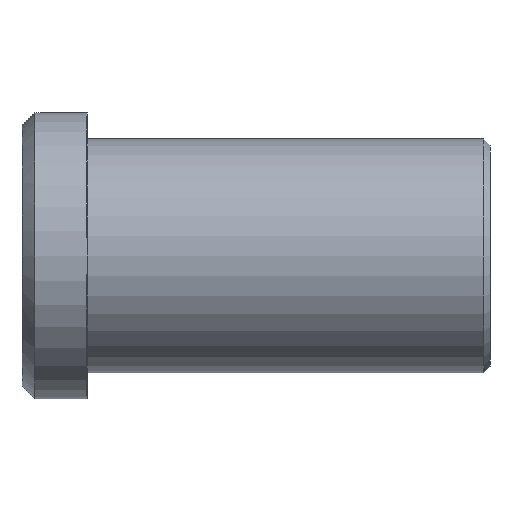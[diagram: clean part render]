
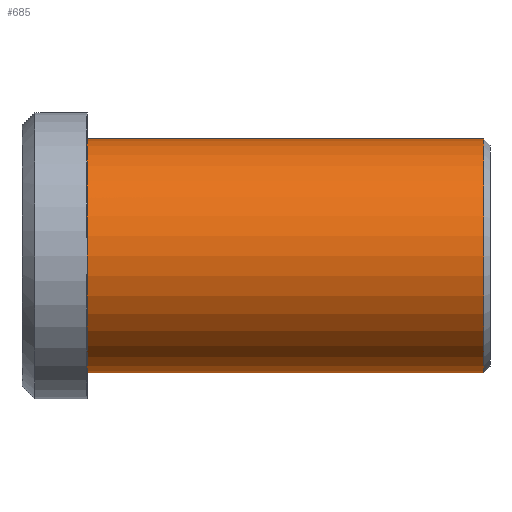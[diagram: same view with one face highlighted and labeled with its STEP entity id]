
A CAD part, front view. The second image highlights one B-rep face of the part: STEP entity #685.
In plain terms, the highlighted cylindrical face has radius 9 mm (diameter 18 mm), a partial arc.
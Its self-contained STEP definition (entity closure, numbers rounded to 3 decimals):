
#495=CARTESIAN_POINT('Vertex',(0.,0.,-9.)) ;
#500=CARTESIAN_POINT('Axis2P3D Location',(0.,0.,0.)) ;
#504=CARTESIAN_POINT('Vertex',(0.,-9.,0.)) ;
#507=CARTESIAN_POINT('Axis2P3D Location',(0.,0.,0.)) ;
#511=CARTESIAN_POINT('Vertex',(0.,0.,9.)) ;
#625=CARTESIAN_POINT('Line Origine',(31.,0.,9.)) ;
#629=CARTESIAN_POINT('Vertex',(30.5,0.,9.)) ;
#643=CARTESIAN_POINT('Vertex',(30.5,0.,-9.)) ;
#646=CARTESIAN_POINT('Line Origine',(31.,0.,-9.)) ;
#660=CARTESIAN_POINT('Axis2P3D Location',(31.,0.,0.)) ;
#665=CARTESIAN_POINT('Axis2P3D Location',(30.5,0.,0.)) ;
#669=CARTESIAN_POINT('Vertex',(30.5,-9.,0.)) ;
#672=CARTESIAN_POINT('Axis2P3D Location',(30.5,0.,0.)) ;
#501=DIRECTION('Axis2P3D Direction',(1.,0.,-0.)) ;
#508=DIRECTION('Axis2P3D Direction',(1.,0.,-0.)) ;
#626=DIRECTION('Vector Direction',(-1.,0.,0.)) ;
#647=DIRECTION('Vector Direction',(-1.,0.,0.)) ;
#661=DIRECTION('Axis2P3D Direction',(-1.,-0.,-0.)) ;
#662=DIRECTION('Axis2P3D XDirection',(0.,0.,-1.)) ;
#666=DIRECTION('Axis2P3D Direction',(-1.,-0.,-0.)) ;
#673=DIRECTION('Axis2P3D Direction',(-1.,-0.,-0.)) ;
#502=AXIS2_PLACEMENT_3D('Circle Axis2P3D',#500,#501,$) ;
#509=AXIS2_PLACEMENT_3D('Circle Axis2P3D',#507,#508,$) ;
#663=AXIS2_PLACEMENT_3D('Cylinder Axis2P3D',#660,#661,#662) ;
#667=AXIS2_PLACEMENT_3D('Circle Axis2P3D',#665,#666,$) ;
#674=AXIS2_PLACEMENT_3D('Circle Axis2P3D',#672,#673,$) ;
#678=ORIENTED_EDGE('',*,*,#650,.T.) ;
#679=ORIENTED_EDGE('',*,*,#671,.F.) ;
#680=ORIENTED_EDGE('',*,*,#676,.F.) ;
#681=ORIENTED_EDGE('',*,*,#631,.T.) ;
#682=ORIENTED_EDGE('',*,*,#513,.T.) ;
#683=ORIENTED_EDGE('',*,*,#506,.T.) ;
#627=VECTOR('Line Direction',#626,1.) ;
#648=VECTOR('Line Direction',#647,1.) ;
#685=ADVANCED_FACE('353-12X36',(#684),#664,.T.) ;
#503=CIRCLE('generated circle',#502,9.) ;
#510=CIRCLE('generated circle',#509,9.) ;
#668=CIRCLE('generated circle',#667,9.) ;
#675=CIRCLE('generated circle',#674,9.) ;
#664=CYLINDRICAL_SURFACE('generated cylinder',#663,9.) ;
#506=EDGE_CURVE('',#505,#496,#503,.T.) ;
#513=EDGE_CURVE('',#512,#505,#510,.T.) ;
#631=EDGE_CURVE('',#630,#512,#628,.T.) ;
#650=EDGE_CURVE('',#496,#644,#649,.F.) ;
#671=EDGE_CURVE('',#670,#644,#668,.F.) ;
#676=EDGE_CURVE('',#630,#670,#675,.F.) ;
#677=EDGE_LOOP('',(#678,#679,#680,#681,#682,#683)) ;
#684=FACE_OUTER_BOUND('',#677,.T.) ;
#628=LINE('Line',#625,#627) ;
#649=LINE('Line',#646,#648) ;
#496=VERTEX_POINT('',#495) ;
#505=VERTEX_POINT('',#504) ;
#512=VERTEX_POINT('',#511) ;
#630=VERTEX_POINT('',#629) ;
#644=VERTEX_POINT('',#643) ;
#670=VERTEX_POINT('',#669) ;
